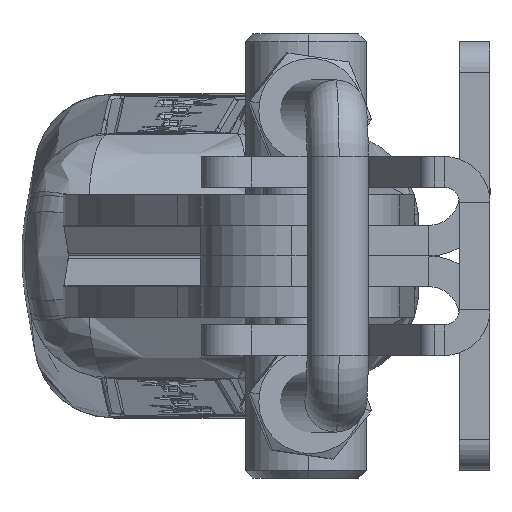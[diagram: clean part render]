
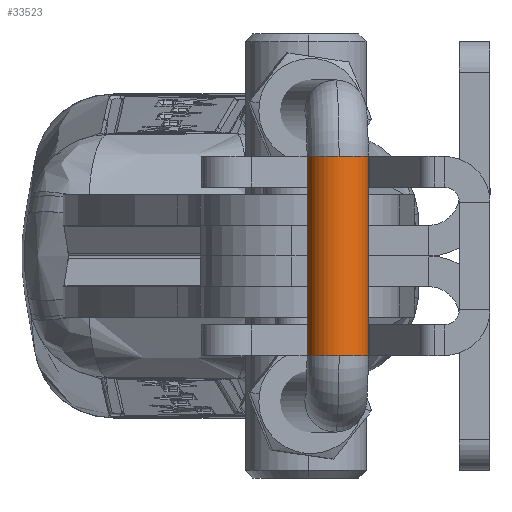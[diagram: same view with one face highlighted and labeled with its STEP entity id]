
A CAD part, left-side view. The second image highlights one B-rep face of the part: STEP entity #33523.
In plain terms, the highlighted cylindrical face has radius 2 mm (diameter 4 mm), a partial arc.
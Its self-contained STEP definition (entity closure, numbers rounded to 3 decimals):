
#341 = CARTESIAN_POINT ( 'NONE',  ( -6.5, 53., 0. ) ) ;
#1106 = EDGE_CURVE ( 'NONE', #20578, #14366, #13824, .T. ) ;
#1200 = ORIENTED_EDGE ( 'NONE', *, *, #22052, .F. ) ;
#1857 = ORIENTED_EDGE ( 'NONE', *, *, #3098, .T. ) ;
#1906 = ORIENTED_EDGE ( 'NONE', *, *, #3004, .T. ) ;
#1979 = CARTESIAN_POINT ( 'NONE',  ( -6.5, 53., 2. ) ) ;
#2168 = LINE ( 'NONE', #22476, #10847 ) ;
#2576 = ORIENTED_EDGE ( 'NONE', *, *, #13790, .F. ) ;
#3004 = EDGE_CURVE ( 'NONE', #11936, #9591, #33364, .T. ) ;
#3098 = EDGE_CURVE ( 'NONE', #9591, #19436, #5180, .T. ) ;
#3767 = ORIENTED_EDGE ( 'NONE', *, *, #1106, .F. ) ;
#3948 = DIRECTION ( 'NONE',  ( 1., 0., 0. ) ) ;
#4009 = CARTESIAN_POINT ( 'NONE',  ( -6.5, 55., 0. ) ) ;
#4670 = CARTESIAN_POINT ( 'NONE',  ( -6.5, 53., -2. ) ) ;
#5180 = CIRCLE ( 'NONE', #29756, 2. ) ;
#5714 = CARTESIAN_POINT ( 'NONE',  ( 6.5, 53., 2. ) ) ;
#5824 = AXIS2_PLACEMENT_3D ( 'NONE', #29262, #13413, #31918 ) ;
#6471 = CARTESIAN_POINT ( 'NONE',  ( 6.5, 53., 0. ) ) ;
#8097 = CARTESIAN_POINT ( 'NONE',  ( 6.5, 55., 0. ) ) ;
#9095 = DIRECTION ( 'NONE',  ( 0., 0., 1. ) ) ;
#9591 = VERTEX_POINT ( 'NONE', #4009 ) ;
#10847 = VECTOR ( 'NONE', #3948, 1000. ) ;
#11092 = CARTESIAN_POINT ( 'NONE',  ( -6.5, 53., 0. ) ) ;
#11936 = VERTEX_POINT ( 'NONE', #26204 ) ;
#12191 = LINE ( 'NONE', #4670, #16776 ) ;
#12239 = CARTESIAN_POINT ( 'NONE',  ( -6.5, 53., 0. ) ) ;
#12660 = DIRECTION ( 'NONE',  ( 1., 0., 0. ) ) ;
#13413 = DIRECTION ( 'NONE',  ( 1., 0., 0. ) ) ;
#13780 = DIRECTION ( 'NONE',  ( 0., 0., 1. ) ) ;
#13790 = EDGE_CURVE ( 'NONE', #14366, #14104, #23296, .T. ) ;
#13824 = CIRCLE ( 'NONE', #5824, 2. ) ;
#14104 = VERTEX_POINT ( 'NONE', #5714 ) ;
#14366 = VERTEX_POINT ( 'NONE', #8097 ) ;
#14904 = DIRECTION ( 'NONE',  ( 0., 0., 1. ) ) ;
#16776 = VECTOR ( 'NONE', #12660, 1000. ) ;
#17712 = FACE_OUTER_BOUND ( 'NONE', #27396, .T. ) ;
#19436 = VERTEX_POINT ( 'NONE', #1979 ) ;
#20578 = VERTEX_POINT ( 'NONE', #31543 ) ;
#20929 = AXIS2_PLACEMENT_3D ( 'NONE', #11092, #29624, #13780 ) ;
#22052 = EDGE_CURVE ( 'NONE', #11936, #20578, #12191, .T. ) ;
#22476 = CARTESIAN_POINT ( 'NONE',  ( -6.5, 53., 2. ) ) ;
#23296 = CIRCLE ( 'NONE', #32771, 2. ) ;
#24169 = DIRECTION ( 'NONE',  ( 0., 0., -1. ) ) ;
#24977 = DIRECTION ( 'NONE',  ( 1., 0., 0. ) ) ;
#26204 = CARTESIAN_POINT ( 'NONE',  ( -6.5, 53., -2. ) ) ;
#26676 = ORIENTED_EDGE ( 'NONE', *, *, #26893, .T. ) ;
#26893 = EDGE_CURVE ( 'NONE', #19436, #14104, #2168, .T. ) ;
#27396 = EDGE_LOOP ( 'NONE', ( #1906, #1857, #26676, #2576, #3767, #1200 ) ) ;
#29262 = CARTESIAN_POINT ( 'NONE',  ( 6.5, 53., 0. ) ) ;
#29498 = DIRECTION ( 'NONE',  ( 1., 0., 0. ) ) ;
#29624 = DIRECTION ( 'NONE',  ( 1., 0., 0. ) ) ;
#29756 = AXIS2_PLACEMENT_3D ( 'NONE', #12239, #30760, #14904 ) ;
#30143 = AXIS2_PLACEMENT_3D ( 'NONE', #341, #29498, #24169 ) ;
#30760 = DIRECTION ( 'NONE',  ( 1., 0., 0. ) ) ;
#30942 = CYLINDRICAL_SURFACE ( 'NONE', #30143, 2. ) ;
#31543 = CARTESIAN_POINT ( 'NONE',  ( 6.5, 53., -2. ) ) ;
#31918 = DIRECTION ( 'NONE',  ( 0., 0., 1. ) ) ;
#32771 = AXIS2_PLACEMENT_3D ( 'NONE', #6471, #24977, #9095 ) ;
#33364 = CIRCLE ( 'NONE', #20929, 2. ) ;
#33523 = ADVANCED_FACE ( 'NONE', ( #17712 ), #30942, .T. ) ;
